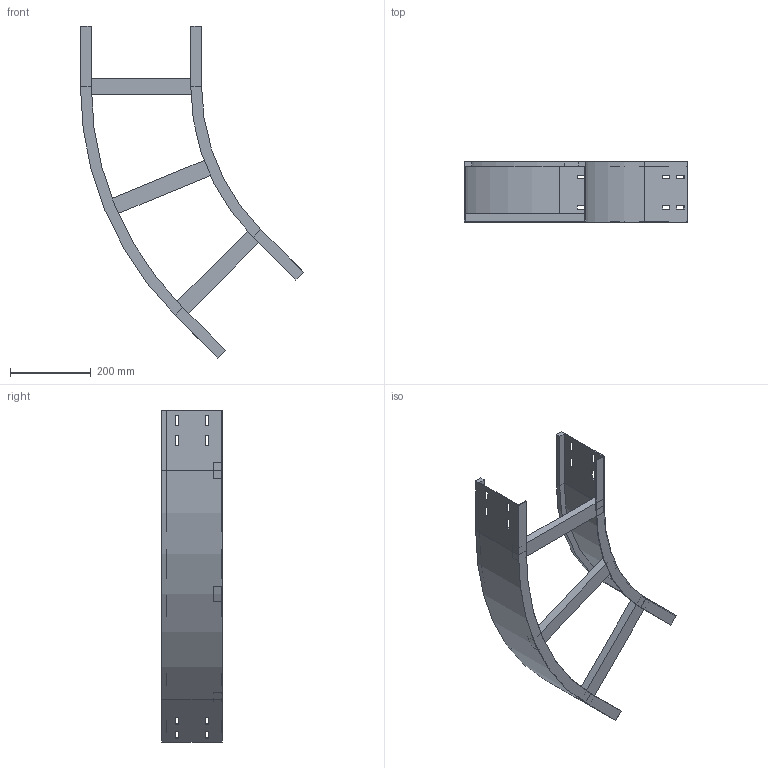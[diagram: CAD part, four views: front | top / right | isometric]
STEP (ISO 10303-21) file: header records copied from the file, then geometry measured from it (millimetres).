
FILE_DESCRIPTION (( 'STEP AP214' ), '1' );
FILE_NAME ('11J5F300.step', '2025-02-21T16:24:06', ( '' ), ( '' ), 'SwSTEP 2.0', 'SolidWorks 2023', '' );
FILE_SCHEMA (( 'AUTOMOTIVE_DESIGN' ));
Length unit declared in the file: millimetre
Products named in the file (4): 11J5F300; TRAVERSINO_300; LONGH.ESTERNO 45°_H150_R500+300; LONGH.INTERNO 45°_H150_R500
Assembly tree (5 placements, depth 2):
  11J5F300
    LONGH.INTERNO 45°_H150_R500
    LONGH.ESTERNO 45°_H150_R500+300
    TRAVERSINO_300  x3
Bounding box: 552.51 x 150 x 821.75 mm (x, y, z)
Volume: 1590671.5 mm3; surface area: 735164.8 mm2
Topology: 5 solids, 5 shells, 134 faces, 340 edges, 216 vertices
Faces by surface type: plane 126, cylinder 8
Entity records: 3821 total; most frequent: CARTESIAN_POINT 646, ORIENTED_EDGE 632, DIRECTION 592, EDGE_CURVE 316, LINE 300, VECTOR 300, VERTEX_POINT 200, EDGE_LOOP 154
